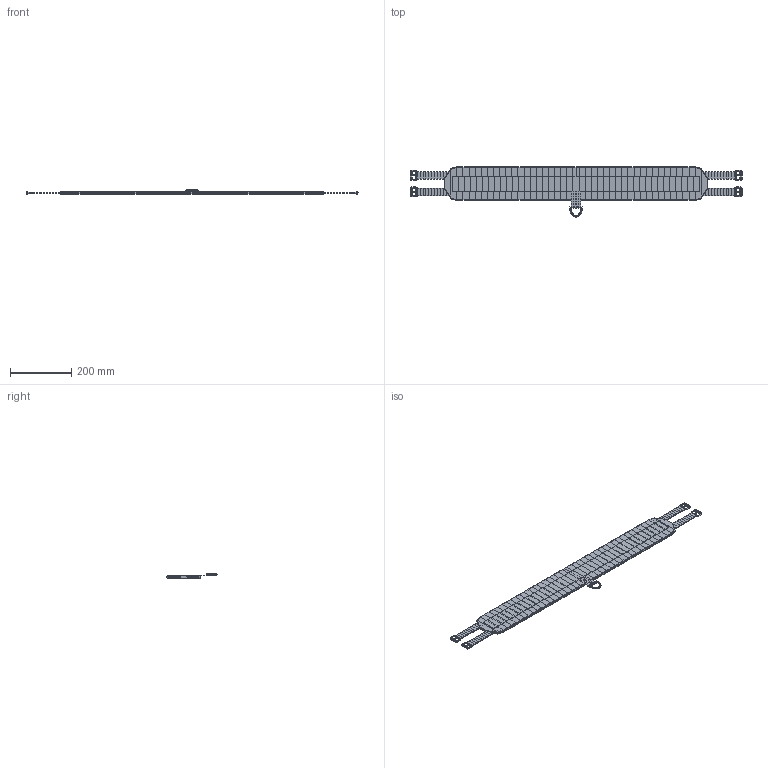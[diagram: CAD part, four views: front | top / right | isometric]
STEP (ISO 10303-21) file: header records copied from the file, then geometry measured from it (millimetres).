
FILE_DESCRIPTION(('AVO Performance Horse - montaje de la cincha (B-rep poliedrico)'),'2;1');
FILE_NAME('Cincha','2026-11-15T12:00:00',('AVO Performance Horse'),('AVO Performance Horse'),'avo_cad.py','avo_cad.py (numpy)','');
FILE_SCHEMA(('AUTOMOTIVE_DESIGN { 1 0 10303 214 1 1 1 1 }'));
Length unit declared in the file: millimetre
Products named in the file (1): Cincha
Bounding box: 1087 x 164.5 x 14.28 mm (x, y, z)
Volume: 834133.3 mm3; surface area: 319518.7 mm2
Topology: 20 solids, 20 shells, 3766 faces, 6540 edges, 2804 vertices
Faces by surface type: plane 3766
Entity records: 62184 total; most frequent: ORIENTED_EDGE 13080, VECTOR 6540, LINE 6540, EDGE_CURVE 6540, DIRECTION 4831, AXIS2_PLACEMENT_3D 3767, EDGE_LOOP 3766, FACE_OUTER_BOUND 3766
